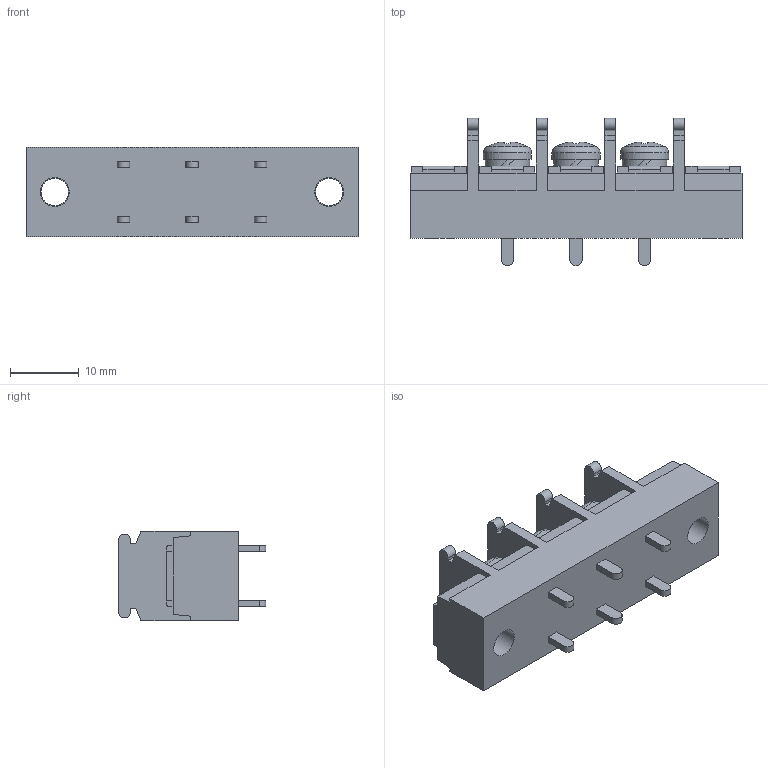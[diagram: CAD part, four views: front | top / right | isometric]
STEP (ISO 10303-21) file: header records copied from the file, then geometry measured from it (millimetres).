
FILE_DESCRIPTION(/* description */ ('Alibre Inc.'),/* implementation_level */ '2;1');
FILE_NAME(/* name */ 'export0',/* time_stamp */ '2015-10-17T19:00:16+09:00',/* author */ (''),/* organization */ (''),/* preprocessor_version */ 'ST-DEVELOPER v14',/* originating_system */ 'Alibre',/* authorisation */ '');
FILE_SCHEMA (('CONFIG_CONTROL_DESIGN'));
Length unit declared in the file: centimetre
Products named in the file (1): ID_1
Bounding box: 48.4 x 21.5 x 13 mm (x, y, z)
Volume: 6815.3 mm3; surface area: 4213.7 mm2
Topology: 1 solids, 17 shells, 644 faces, 1715 edges, 1141 vertices
Faces by surface type: plane 482, bspline 104, cylinder 37, cone 12, torus 6, sphere 3
Full cylindrical faces by diameter (mm): 4 x5, 4.2 x2, 6.5 x3, 7 x3
Entity records: 19352 total; most frequent: CARTESIAN_POINT 4478, ORIENTED_EDGE 3376, DIRECTION 2200, EDGE_CURVE 1688, VECTOR 1298, LINE 1298, VERTEX_POINT 1130, EDGE_LOOP 714
